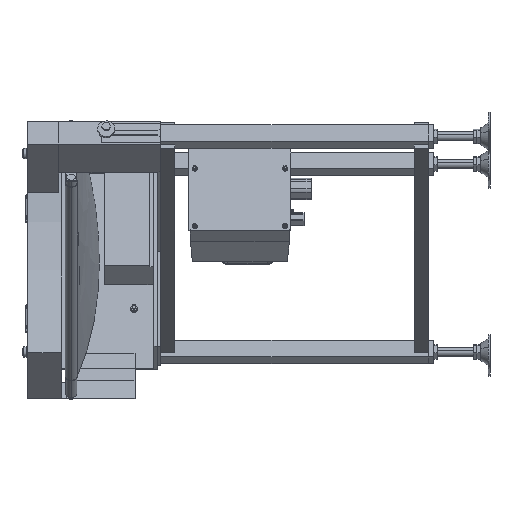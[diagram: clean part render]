
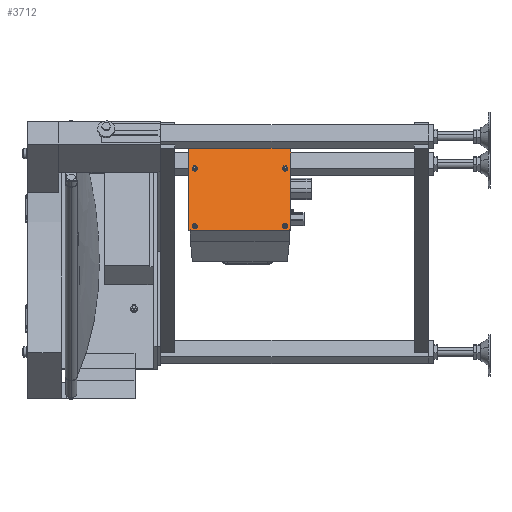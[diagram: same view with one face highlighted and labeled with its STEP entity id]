
A CAD part, left-side view. The second image highlights one B-rep face of the part: STEP entity #3712.
In plain terms, the highlighted planar face has unit normal (-0.924, 0, 0.383).
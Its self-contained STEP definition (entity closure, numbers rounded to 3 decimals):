
#3712=ADVANCED_FACE('',(#16674,#16675,#16676,#16677,#16678),#16673,.T.);
#16673=PLANE('',#27193);
#16674=FACE_OUTER_BOUND('',#27194,.T.);
#16675=FACE_BOUND('',#27195,.T.);
#16676=FACE_BOUND('',#27196,.T.);
#16677=FACE_BOUND('',#27197,.T.);
#16678=FACE_BOUND('',#27198,.T.);
#27190=CARTESIAN_POINT('',(459.657,-407.5,-202.302));
#27191=DIRECTION('',(-0.924,0.,0.383));
#27192=DIRECTION('',(0.383,0.,0.924));
#27193=AXIS2_PLACEMENT_3D('',#27190,#27191,#27192);
#27194=EDGE_LOOP('',(#33835,#33836,#33837,#33838));
#27195=EDGE_LOOP('',(#33839,#33840));
#27196=EDGE_LOOP('',(#33841,#33842));
#27197=EDGE_LOOP('',(#33843,#33844));
#27198=EDGE_LOOP('',(#33845,#33846));
#33835=ORIENTED_EDGE('',*,*,#37431,.F.);
#33836=ORIENTED_EDGE('',*,*,#37440,.F.);
#33837=ORIENTED_EDGE('',*,*,#37439,.T.);
#33838=ORIENTED_EDGE('',*,*,#37078,.T.);
#33839=ORIENTED_EDGE('',*,*,#37441,.T.);
#33840=ORIENTED_EDGE('',*,*,#37316,.T.);
#33841=ORIENTED_EDGE('',*,*,#37442,.T.);
#33842=ORIENTED_EDGE('',*,*,#37341,.T.);
#33843=ORIENTED_EDGE('',*,*,#37443,.T.);
#33844=ORIENTED_EDGE('',*,*,#37366,.T.);
#33845=ORIENTED_EDGE('',*,*,#37444,.T.);
#33846=ORIENTED_EDGE('',*,*,#37429,.T.);
#37078=EDGE_CURVE('',#55470,#55462,#55471,.T.);
#37316=EDGE_CURVE('',#57036,#57043,#57050,.T.);
#37341=EDGE_CURVE('',#57200,#57207,#57214,.T.);
#37366=EDGE_CURVE('',#57364,#57371,#57378,.T.);
#37429=EDGE_CURVE('',#57782,#57789,#57796,.T.);
#37431=EDGE_CURVE('',#57803,#55462,#57810,.T.);
#37439=EDGE_CURVE('',#57837,#55470,#57864,.T.);
#37440=EDGE_CURVE('',#57837,#57803,#57870,.T.);
#37441=EDGE_CURVE('',#57043,#57036,#57876,.T.);
#37442=EDGE_CURVE('',#57207,#57200,#57882,.T.);
#37443=EDGE_CURVE('',#57371,#57364,#57888,.T.);
#37444=EDGE_CURVE('',#57789,#57782,#57894,.T.);
#55462=VERTEX_POINT('',#71737);
#55470=VERTEX_POINT('',#71742);
#55471=LINE('',#71743,#71744);
#57036=VERTEX_POINT('',#72671);
#57043=VERTEX_POINT('',#72675);
#57050=CIRCLE('',#72682,4.5);
#57200=VERTEX_POINT('',#72777);
#57207=VERTEX_POINT('',#72781);
#57214=CIRCLE('',#72788,4.5);
#57364=VERTEX_POINT('',#72883);
#57371=VERTEX_POINT('',#72887);
#57378=CIRCLE('',#72894,4.5);
#57782=VERTEX_POINT('',#73137);
#57789=VERTEX_POINT('',#73141);
#57796=CIRCLE('',#73148,4.5);
#57803=VERTEX_POINT('',#73150);
#57810=LINE('',#73154,#73155);
#57837=VERTEX_POINT('',#73169);
#57864=LINE('',#73184,#73185);
#57870=LINE('',#73187,#73188);
#57876=CIRCLE('',#73193,4.5);
#57882=CIRCLE('',#73197,4.5);
#57888=CIRCLE('',#73201,4.5);
#57894=CIRCLE('',#73205,4.5);
#71737=CARTESIAN_POINT('',(526.626,-217.5,-40.623));
#71742=CARTESIAN_POINT('',(526.626,-397.5,-40.623));
#71743=CARTESIAN_POINT('',(526.626,-397.5,-40.623));
#71744=VECTOR('',#71745,180.);
#71745=DIRECTION('',(0.,1.,0.));
#72671=CARTESIAN_POINT('',(468.076,-387.5,-181.977));
#72675=CARTESIAN_POINT('',(464.631,-387.5,-190.292));
#72679=CARTESIAN_POINT('',(466.354,-387.5,-186.134));
#72680=DIRECTION('',(0.924,0.,-0.383));
#72681=DIRECTION('',(0.383,0.,0.924));
#72682=AXIS2_PLACEMENT_3D('',#72679,#72680,#72681);
#72777=CARTESIAN_POINT('',(510.171,-387.5,-80.35));
#72781=CARTESIAN_POINT('',(506.727,-387.5,-88.665));
#72785=CARTESIAN_POINT('',(508.449,-387.5,-84.508));
#72786=DIRECTION('',(0.924,0.,-0.383));
#72787=DIRECTION('',(-0.383,0.,-0.924));
#72788=AXIS2_PLACEMENT_3D('',#72785,#72786,#72787);
#72883=CARTESIAN_POINT('',(468.076,-227.5,-181.977));
#72887=CARTESIAN_POINT('',(464.631,-227.5,-190.292));
#72891=CARTESIAN_POINT('',(466.354,-227.5,-186.134));
#72892=DIRECTION('',(0.924,0.,-0.383));
#72893=DIRECTION('',(0.383,0.,0.924));
#72894=AXIS2_PLACEMENT_3D('',#72891,#72892,#72893);
#73137=CARTESIAN_POINT('',(510.171,-227.5,-80.35));
#73141=CARTESIAN_POINT('',(506.727,-227.5,-88.665));
#73145=CARTESIAN_POINT('',(508.449,-227.5,-84.508));
#73146=DIRECTION('',(0.924,0.,-0.383));
#73147=DIRECTION('',(-0.383,0.,-0.924));
#73148=AXIS2_PLACEMENT_3D('',#73145,#73146,#73147);
#73150=CARTESIAN_POINT('',(463.483,-217.5,-193.063));
#73154=CARTESIAN_POINT('',(463.483,-217.5,-193.063));
#73155=VECTOR('',#73156,165.);
#73156=DIRECTION('',(0.383,0.,0.924));
#73169=CARTESIAN_POINT('',(463.483,-397.5,-193.063));
#73184=CARTESIAN_POINT('',(463.483,-397.5,-193.063));
#73185=VECTOR('',#73186,165.);
#73186=DIRECTION('',(0.383,0.,0.924));
#73187=CARTESIAN_POINT('',(463.483,-397.5,-193.063));
#73188=VECTOR('',#73189,180.);
#73189=DIRECTION('',(0.,1.,0.));
#73190=CARTESIAN_POINT('',(466.354,-387.5,-186.134));
#73191=DIRECTION('',(0.924,0.,-0.383));
#73192=DIRECTION('',(-0.383,0.,-0.924));
#73193=AXIS2_PLACEMENT_3D('',#73190,#73191,#73192);
#73194=CARTESIAN_POINT('',(508.449,-387.5,-84.508));
#73195=DIRECTION('',(0.924,0.,-0.383));
#73196=DIRECTION('',(-0.383,0.,-0.924));
#73197=AXIS2_PLACEMENT_3D('',#73194,#73195,#73196);
#73198=CARTESIAN_POINT('',(466.354,-227.5,-186.134));
#73199=DIRECTION('',(0.924,0.,-0.383));
#73200=DIRECTION('',(0.383,0.,0.924));
#73201=AXIS2_PLACEMENT_3D('',#73198,#73199,#73200);
#73202=CARTESIAN_POINT('',(508.449,-227.5,-84.508));
#73203=DIRECTION('',(0.924,0.,-0.383));
#73204=DIRECTION('',(-0.383,0.,-0.924));
#73205=AXIS2_PLACEMENT_3D('',#73202,#73203,#73204);
